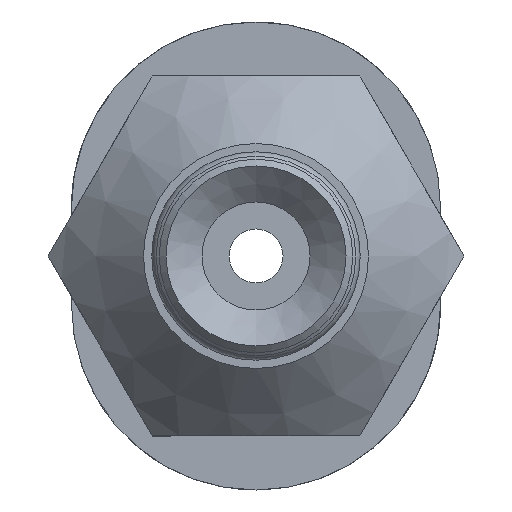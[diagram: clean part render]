
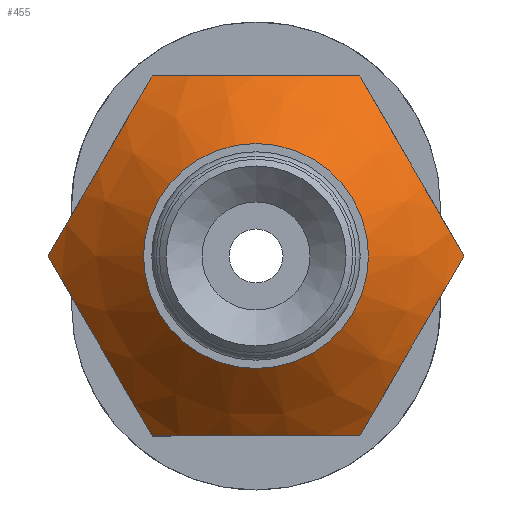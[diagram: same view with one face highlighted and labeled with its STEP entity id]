
A CAD part, front view. The second image highlights one B-rep face of the part: STEP entity #455.
In plain terms, the highlighted conical face has half-angle 45 degrees and reference radius 2.5 mm.
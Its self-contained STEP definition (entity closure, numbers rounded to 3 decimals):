
#455=ADVANCED_FACE('',(#604,#605),#606,.T.);
#604=FACE_BOUND('',#964,.T.);
#605=FACE_OUTER_BOUND('',#965,.T.);
#606=CONICAL_SURFACE('',#966,2.5,0.785);
#964=EDGE_LOOP('',(#1534));
#965=EDGE_LOOP('',(#1535,#1536,#1537,#1538,#1539,#1540));
#966=AXIS2_PLACEMENT_3D('',#1541,#1542,#1543);
#1534=ORIENTED_EDGE('',*,*,#2476,.F.);
#1535=ORIENTED_EDGE('',*,*,#2477,.F.);
#1536=ORIENTED_EDGE('',*,*,#2478,.F.);
#1537=ORIENTED_EDGE('',*,*,#2479,.F.);
#1538=ORIENTED_EDGE('',*,*,#2480,.F.);
#1539=ORIENTED_EDGE('',*,*,#2481,.F.);
#1540=ORIENTED_EDGE('',*,*,#2482,.F.);
#1541=CARTESIAN_POINT('',(0.0,0.,0.0));
#1542=DIRECTION('',(-0.0,1.0,-0.0));
#1543=DIRECTION('',(0.0,0.0,1.0));
#2476=EDGE_CURVE('',#2732,#2732,#2733,.T.);
#2477=EDGE_CURVE('',#2734,#2735,#2736,.T.);
#2478=EDGE_CURVE('',#2737,#2734,#2738,.T.);
#2479=EDGE_CURVE('',#2739,#2737,#2740,.T.);
#2480=EDGE_CURVE('',#2741,#2739,#2742,.T.);
#2481=EDGE_CURVE('',#2743,#2741,#2744,.T.);
#2482=EDGE_CURVE('',#2735,#2743,#2745,.T.);
#2732=VERTEX_POINT('',#3162);
#2733=CIRCLE('',#3163,2.5);
#2734=VERTEX_POINT('',#3164);
#2735=VERTEX_POINT('',#3165);
#2736=B_SPLINE_CURVE_WITH_KNOTS('',2,(#3166,#3167,#3168,#3169,#3170),.UNSPECIFIED.,.F.,.F.,(3,2,3),(0.0,0.5,1.0),.UNSPECIFIED.);
#2737=VERTEX_POINT('',#3171);
#2738=B_SPLINE_CURVE_WITH_KNOTS('',2,(#3172,#3173,#3174,#3175,#3176),.UNSPECIFIED.,.F.,.F.,(3,2,3),(0.0,0.5,1.0),.UNSPECIFIED.);
#2739=VERTEX_POINT('',#3177);
#2740=B_SPLINE_CURVE_WITH_KNOTS('',2,(#3178,#3179,#3180,#3181,#3182),.UNSPECIFIED.,.F.,.F.,(3,2,3),(0.0,0.5,1.0),.UNSPECIFIED.);
#2741=VERTEX_POINT('',#3183);
#2742=B_SPLINE_CURVE_WITH_KNOTS('',2,(#3184,#3185,#3186,#3187,#3188),.UNSPECIFIED.,.F.,.F.,(3,2,3),(0.0,0.5,1.0),.UNSPECIFIED.);
#2743=VERTEX_POINT('',#3189);
#2744=B_SPLINE_CURVE_WITH_KNOTS('',2,(#3190,#3191,#3192,#3193,#3194),.UNSPECIFIED.,.F.,.F.,(3,2,3),(0.0,0.5,1.0),.UNSPECIFIED.);
#2745=B_SPLINE_CURVE_WITH_KNOTS('',2,(#3195,#3196,#3197,#3198,#3199),.UNSPECIFIED.,.F.,.F.,(3,2,3),(0.0,0.5,1.0),.UNSPECIFIED.);
#3162=CARTESIAN_POINT('',(0.0,0.,-2.5));
#3163=AXIS2_PLACEMENT_3D('',#4033,#4034,#4035);
#3164=CARTESIAN_POINT('',(4.619,2.119,0.));
#3165=CARTESIAN_POINT('',(2.309,2.119,-4.0));
#3166=CARTESIAN_POINT('',(4.619,2.119,0.));
#3167=CARTESIAN_POINT('',(4.002,1.502,-1.068));
#3168=CARTESIAN_POINT('',(3.468,1.5,-1.993));
#3169=CARTESIAN_POINT('',(2.93,1.498,-2.924));
#3170=CARTESIAN_POINT('',(2.309,2.119,-4.));
#3171=CARTESIAN_POINT('',(2.309,2.119,4.0));
#3172=CARTESIAN_POINT('',(2.309,2.119,4.0));
#3173=CARTESIAN_POINT('',(2.926,1.502,2.932));
#3174=CARTESIAN_POINT('',(3.46,1.5,2.007));
#3175=CARTESIAN_POINT('',(3.998,1.498,1.076));
#3176=CARTESIAN_POINT('',(4.619,2.119,0.));
#3177=CARTESIAN_POINT('',(-2.309,2.119,4.0));
#3178=CARTESIAN_POINT('',(-2.309,2.119,4.0));
#3179=CARTESIAN_POINT('',(-1.073,1.5,4.0));
#3180=CARTESIAN_POINT('',(-0.001,1.5,4.0));
#3181=CARTESIAN_POINT('',(1.071,1.5,4.0));
#3182=CARTESIAN_POINT('',(2.309,2.119,4.0));
#3183=CARTESIAN_POINT('',(-4.619,2.119,0.));
#3184=CARTESIAN_POINT('',(-4.619,2.119,0.));
#3185=CARTESIAN_POINT('',(-4.002,1.502,1.068));
#3186=CARTESIAN_POINT('',(-3.468,1.5,1.993));
#3187=CARTESIAN_POINT('',(-2.93,1.498,2.924));
#3188=CARTESIAN_POINT('',(-2.309,2.119,4.));
#3189=CARTESIAN_POINT('',(-2.309,2.119,-4.0));
#3190=CARTESIAN_POINT('',(-2.309,2.119,-4.0));
#3191=CARTESIAN_POINT('',(-2.926,1.502,-2.932));
#3192=CARTESIAN_POINT('',(-3.46,1.5,-2.007));
#3193=CARTESIAN_POINT('',(-3.998,1.498,-1.076));
#3194=CARTESIAN_POINT('',(-4.619,2.119,0.));
#3195=CARTESIAN_POINT('',(2.309,2.119,-4.0));
#3196=CARTESIAN_POINT('',(1.073,1.5,-4.0));
#3197=CARTESIAN_POINT('',(0.001,1.5,-4.0));
#3198=CARTESIAN_POINT('',(-1.071,1.5,-4.0));
#3199=CARTESIAN_POINT('',(-2.309,2.119,-4.0));
#4033=CARTESIAN_POINT('',(0.0,0.,0.0));
#4034=DIRECTION('',(0.0,-1.0,0.0));
#4035=DIRECTION('',(0.0,0.0,-1.0));
